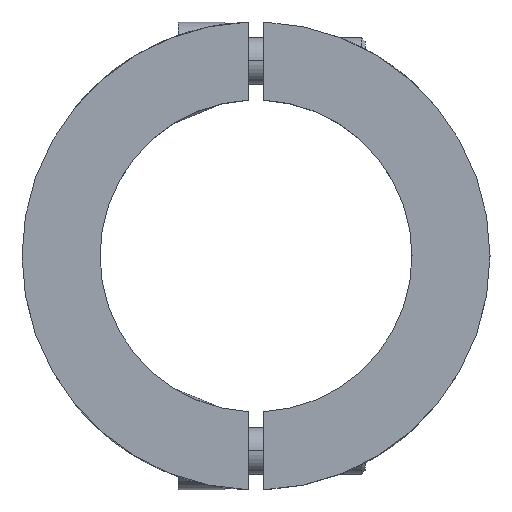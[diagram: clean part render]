
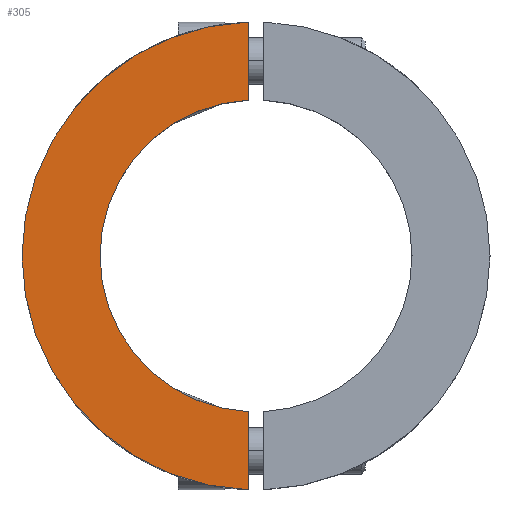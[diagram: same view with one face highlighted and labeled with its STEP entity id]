
A CAD part, top view. The second image highlights one B-rep face of the part: STEP entity #305.
In plain terms, the highlighted planar face has unit normal (0, 0, 1).
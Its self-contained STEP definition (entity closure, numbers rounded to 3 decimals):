
#15 = ORIENTED_EDGE ( 'NONE', *, *, #1242, .T. ) ;
#34 = CIRCLE ( 'NONE', #1912, 20. ) ;
#87 = LINE ( 'NONE', #774, #1314 ) ;
#135 = ORIENTED_EDGE ( 'NONE', *, *, #1399, .T. ) ;
#202 = EDGE_LOOP ( 'NONE', ( #429, #2043, #15, #324, #135 ) ) ;
#269 = DIRECTION ( 'NONE',  ( -0.033, 0.999, 0. ) ) ;
#305 = ADVANCED_FACE ( 'NONE', ( #1215 ), #1430, .T. ) ;
#324 = ORIENTED_EDGE ( 'NONE', *, *, #2097, .T. ) ;
#370 = VERTEX_POINT ( 'NONE', #546 ) ;
#429 = ORIENTED_EDGE ( 'NONE', *, *, #1319, .T. ) ;
#546 = CARTESIAN_POINT ( 'NONE',  ( -1., 19.975, 7.5 ) ) ;
#769 = AXIS2_PLACEMENT_3D ( 'NONE', #1836, #1113, #1815 ) ;
#774 = CARTESIAN_POINT ( 'NONE',  ( -1., -29.983, 7.5 ) ) ;
#806 = CARTESIAN_POINT ( 'NONE',  ( 0., 0., 7.5 ) ) ;
#819 = DIRECTION ( 'NONE',  ( -0.05, -0.999, 0. ) ) ;
#975 = DIRECTION ( 'NONE',  ( 0., 0., -1. ) ) ;
#1035 = DIRECTION ( 'NONE',  ( 0., 0., 1. ) ) ;
#1113 = DIRECTION ( 'NONE',  ( 0., 0., 1. ) ) ;
#1158 = VECTOR ( 'NONE', #1333, 1000. ) ;
#1215 = FACE_OUTER_BOUND ( 'NONE', #202, .T. ) ;
#1242 = EDGE_CURVE ( 'NONE', #2204, #1838, #87, .T. ) ;
#1303 = DIRECTION ( 'NONE',  ( 0., 1., 0. ) ) ;
#1314 = VECTOR ( 'NONE', #1303, 1000. ) ;
#1319 = EDGE_CURVE ( 'NONE', #1674, #1820, #1969, .T. ) ;
#1333 = DIRECTION ( 'NONE',  ( 0., 1., 0. ) ) ;
#1359 = CARTESIAN_POINT ( 'NONE',  ( -1., -29.983, 7.5 ) ) ;
#1399 = EDGE_CURVE ( 'NONE', #370, #1674, #1675, .T. ) ;
#1428 = CARTESIAN_POINT ( 'NONE',  ( -1., 29.983, 7.5 ) ) ;
#1430 = PLANE ( 'NONE',  #2136 ) ;
#1543 = DIRECTION ( 'NONE',  ( 1., 0., 0. ) ) ;
#1674 = VERTEX_POINT ( 'NONE', #1428 ) ;
#1675 = LINE ( 'NONE', #1872, #1158 ) ;
#1790 = CARTESIAN_POINT ( 'NONE',  ( -1., -19.975, 7.5 ) ) ;
#1806 = CIRCLE ( 'NONE', #769, 30. ) ;
#1815 = DIRECTION ( 'NONE',  ( -0.033, 0.999, 0. ) ) ;
#1820 = VERTEX_POINT ( 'NONE', #2128 ) ;
#1836 = CARTESIAN_POINT ( 'NONE',  ( 0., 0., 7.5 ) ) ;
#1838 = VERTEX_POINT ( 'NONE', #1790 ) ;
#1849 = CARTESIAN_POINT ( 'NONE',  ( 0., 0., 7.5 ) ) ;
#1872 = CARTESIAN_POINT ( 'NONE',  ( -1., 19.975, 7.5 ) ) ;
#1908 = EDGE_CURVE ( 'NONE', #1820, #2204, #1806, .T. ) ;
#1912 = AXIS2_PLACEMENT_3D ( 'NONE', #1849, #975, #819 ) ;
#1916 = AXIS2_PLACEMENT_3D ( 'NONE', #806, #2014, #269 ) ;
#1969 = CIRCLE ( 'NONE', #1916, 30. ) ;
#2014 = DIRECTION ( 'NONE',  ( 0., 0., 1. ) ) ;
#2043 = ORIENTED_EDGE ( 'NONE', *, *, #1908, .T. ) ;
#2097 = EDGE_CURVE ( 'NONE', #1838, #370, #34, .T. ) ;
#2128 = CARTESIAN_POINT ( 'NONE',  ( -30., 0., 7.5 ) ) ;
#2136 = AXIS2_PLACEMENT_3D ( 'NONE', #2148, #1035, #1543 ) ;
#2148 = CARTESIAN_POINT ( 'NONE',  ( 0., 0., 7.5 ) ) ;
#2204 = VERTEX_POINT ( 'NONE', #1359 ) ;
